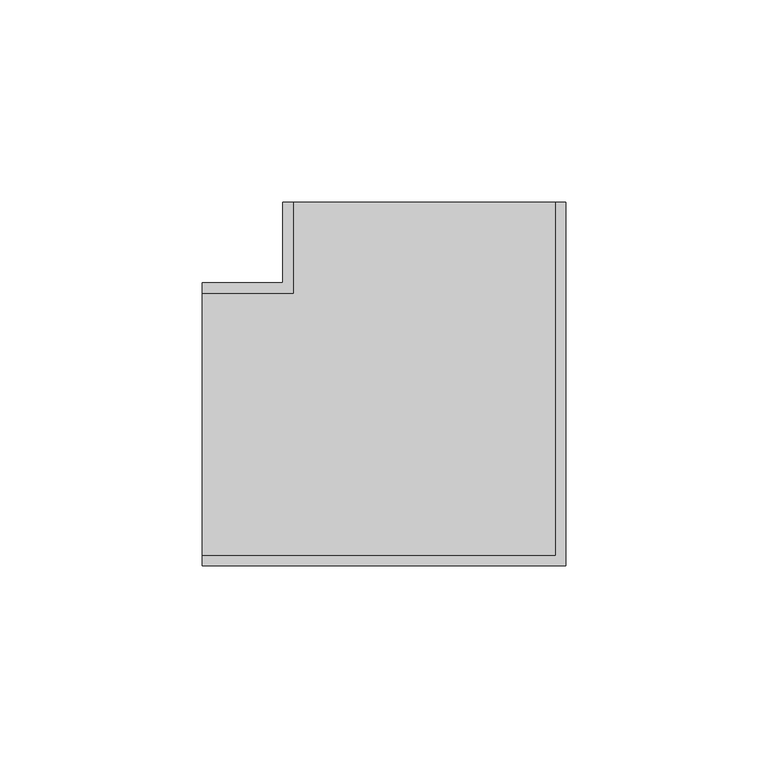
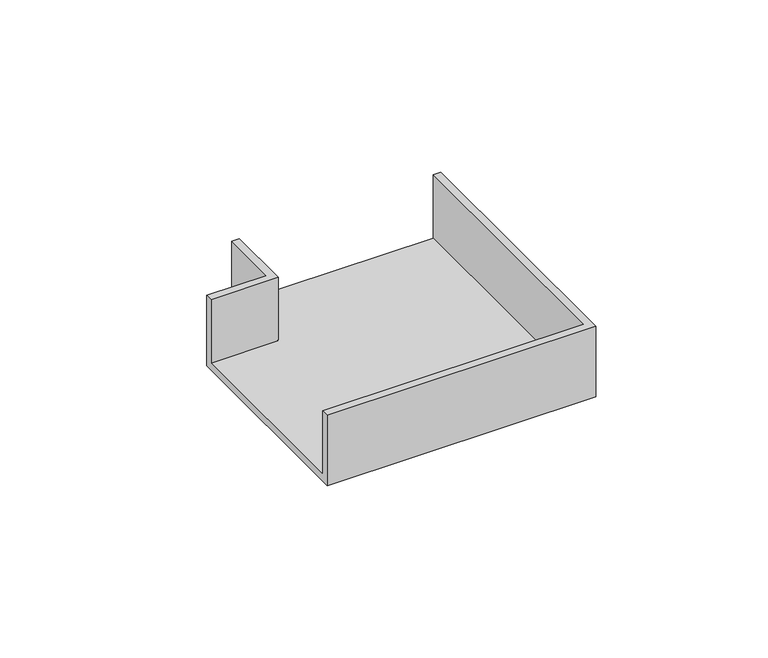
"""IFC4 building model written with IfcOpenShell, lengths in millimetres: cable carrier fitting geometry, КНС_УголПлоский_ILF_DKC : Угол плоский белый."""

from ifc_helpers import new_model, si_unit, origin, place, context, project, spatial, faceted_brep, source, transform, mapped, element, save


def cable_carrier_fitting_19747507(model_context):
    return source(origin(), model_context, "Body", "Brep", [
        faceted_brep([(-55.0, 35.0, -12.5), (-55.0, -35.0, -12.5), (-55.0, -35.0, 12.5), (-55.0, -32.46, 12.5), (-55.0, -32.46, -9.96), (-55.0, 32.46, -9.96), (-55.0, 32.46, 12.5), (-55.0, 35.0, 12.5), (-35.0, 35.0, -12.5), (-35.0, 55.0, -12.5), (35.0, 55.0, -12.5), (35.0, -35.0, -12.5), (35.0, -35.0, 12.5), (35.0, 55.0, 12.5), (32.46, 55.0, 12.5), (32.46, -32.46, 12.5), (32.46, -32.46, -9.96), (32.46, 55.0, -9.96), (-32.46, 55.0, -9.96), (-32.46, 32.46, -9.96), (-32.46, 32.46, 12.5), (-32.46, 55.0, 12.5), (-35.0, 55.0, 12.5), (-35.0, 35.0, 12.5)], [[[0, 1, 2, 3, 4, 5, 6, 7]], [[1, 0, 8, 9, 10, 11]], [[2, 1, 11, 12]], [[3, 2, 12, 13, 14, 15]], [[4, 3, 15, 16]], [[5, 4, 16, 17, 18, 19]], [[6, 5, 19, 20]], [[7, 6, 20, 21, 22, 23]], [[0, 7, 23, 8]], [[9, 22, 21, 18, 17, 14, 13, 10]], [[12, 11, 10, 13]], [[16, 15, 14, 17]], [[20, 19, 18, 21]], [[8, 23, 22, 9]]]),
    ])


if __name__ == "__main__":
    model = new_model("IFC4")
    model_context = context("Model", 3, world=origin())
    ifc_project = project(units=[si_unit("LENGTHUNIT", "METRE", prefix="MILLI")], contexts=[model_context])
    site = spatial("IfcSite", under=ifc_project)
    building = spatial("IfcBuilding", under=site)
    placement = place(None, origin())
    cable_carrier_fitting_shape = cable_carrier_fitting_19747507(model_context)
    element("IfcCableCarrierFitting", 1, ObjectType="КНС_УголПлоский_ILF_DKC : Угол плоский белый", at=placement, inside=building, context=model_context, shape_type="MappedRepresentation", body=[
        mapped(cable_carrier_fitting_shape, transform((0.0, 0.0, 0.0), x_axis=(1.0, 0.0, 0.0), y_axis=(0.0, 1.0, 0.0), z_axis=(0.0, 0.0, 1.0))),
    ])
    save(model, "model.ifc")
